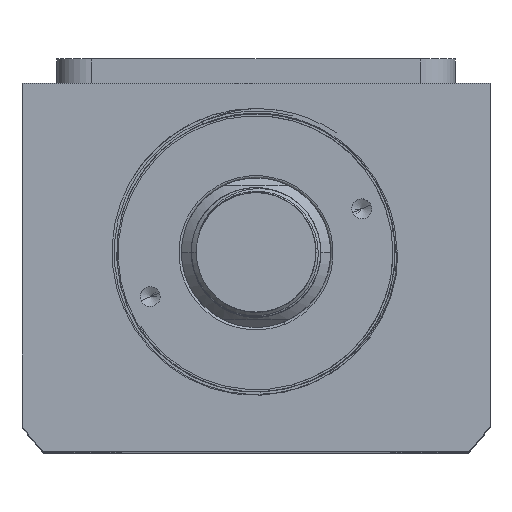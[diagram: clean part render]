
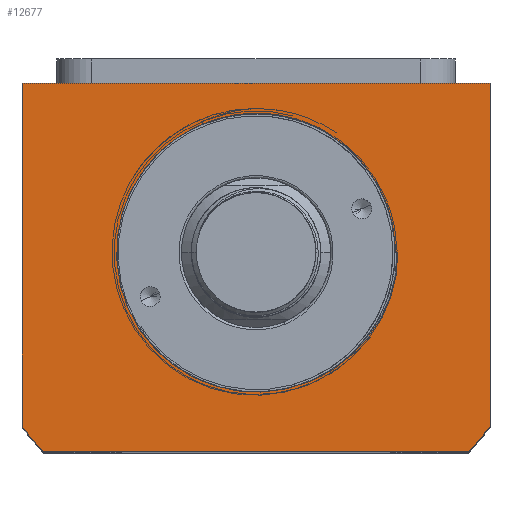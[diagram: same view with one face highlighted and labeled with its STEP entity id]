
A CAD part, top view. The second image highlights one B-rep face of the part: STEP entity #12677.
In plain terms, the highlighted planar face has unit normal (0, 0, 1).
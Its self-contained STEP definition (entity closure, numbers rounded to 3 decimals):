
#31 = DIRECTION ( 'NONE',  ( 0., 0., 1. ) ) ;
#35 = VECTOR ( 'NONE', #11936, 1000. ) ;
#631 = VERTEX_POINT ( 'NONE', #13803 ) ;
#872 = EDGE_CURVE ( 'NONE', #14591, #10505, #4173, .T. ) ;
#988 = EDGE_CURVE ( 'NONE', #6617, #19077, #8606, .T. ) ;
#1070 = DIRECTION ( 'NONE',  ( -1., 0., 0. ) ) ;
#1077 = CARTESIAN_POINT ( 'NONE',  ( 26.694, -9.657, 70. ) ) ;
#1197 = CARTESIAN_POINT ( 'NONE',  ( 0., 0., 70. ) ) ;
#1211 = CARTESIAN_POINT ( 'NONE',  ( 18.129, -21.529, 70. ) ) ;
#1763 = EDGE_CURVE ( 'NONE', #14486, #15279, #13064, .T. ) ;
#2010 = DIRECTION ( 'NONE',  ( 0., 0., -1. ) ) ;
#2461 = CARTESIAN_POINT ( 'NONE',  ( 28.485, -0.71, 70. ) ) ;
#2528 = CARTESIAN_POINT ( 'NONE',  ( 27.887, -5.628, 70. ) ) ;
#2716 = CARTESIAN_POINT ( 'NONE',  ( -47., -34.832, 70. ) ) ;
#2720 = CARTESIAN_POINT ( 'NONE',  ( 11.542, -25.544, 70. ) ) ;
#2805 = CARTESIAN_POINT ( 'NONE',  ( -47., 34., 70. ) ) ;
#3168 = CARTESIAN_POINT ( 'NONE',  ( -42.688, -40., 70. ) ) ;
#3797 = VECTOR ( 'NONE', #4568, 1000. ) ;
#3871 = ORIENTED_EDGE ( 'NONE', *, *, #872, .T. ) ;
#3977 = CARTESIAN_POINT ( 'NONE',  ( 10.232, -26.064, 70. ) ) ;
#4053 = CARTESIAN_POINT ( 'NONE',  ( 18.667, -21.077, 70. ) ) ;
#4100 = PLANE ( 'NONE',  #11523 ) ;
#4113 = CARTESIAN_POINT ( 'NONE',  ( 21.684, -18.094, 70. ) ) ;
#4173 = LINE ( 'NONE', #11051, #9357 ) ;
#4242 = CARTESIAN_POINT ( 'NONE',  ( 28.449, -1.419, 70. ) ) ;
#4568 = DIRECTION ( 'NONE',  ( 0., 1., 0. ) ) ;
#5173 = ORIENTED_EDGE ( 'NONE', *, *, #6550, .T. ) ;
#5643 = CARTESIAN_POINT ( 'NONE',  ( 27.555, -6.99, 70. ) ) ;
#5739 = CARTESIAN_POINT ( 'NONE',  ( 28., 0., 70. ) ) ;
#5774 = CARTESIAN_POINT ( 'NONE',  ( 24.178, -14.712, 70. ) ) ;
#5966 = CIRCLE ( 'NONE', #17912, 28. ) ;
#6017 = EDGE_CURVE ( 'NONE', #10505, #631, #9494, .T. ) ;
#6027 = CARTESIAN_POINT ( 'NONE',  ( 47., 34., 70. ) ) ;
#6143 = CARTESIAN_POINT ( 'NONE',  ( 0., 0., 70. ) ) ;
#6193 = CIRCLE ( 'NONE', #12592, 58.5 ) ;
#6550 = EDGE_CURVE ( 'NONE', #15279, #14591, #6193, .T. ) ;
#6551 = EDGE_CURVE ( 'NONE', #13311, #14486, #13692, .T. ) ;
#6617 = VERTEX_POINT ( 'NONE', #9061 ) ;
#6944 = VERTEX_POINT ( 'NONE', #5739 ) ;
#7213 = CARTESIAN_POINT ( 'NONE',  ( 26.163, -10.961, 70. ) ) ;
#7653 = DIRECTION ( 'NONE',  ( 0., 0., 1. ) ) ;
#8205 = CARTESIAN_POINT ( 'NONE',  ( 0., 0., 70. ) ) ;
#8606 = B_SPLINE_CURVE_WITH_KNOTS ( 'NONE', 3,
 ( #16186, #2461, #4242, #18999, #11539, #2528, #5643, #1077, #7213, #13041, #5774, #8724, #4113, #19187, #11602, #4053, #1211, #17639, #12985, #11725, #14545, #2720, #18936, #3977 ),
 .UNSPECIFIED., .F., .F.,
 ( 4, 2, 2, 2, 2, 2, 2, 2, 2, 2, 2, 4 ),
 ( 0., 0.002, 0.004, 0.009, 0.013, 0.017, 0.021, 0.023, 0.026, 0.03, 0.032, 0.034 ),
 .UNSPECIFIED. ) ;
#8724 = CARTESIAN_POINT ( 'NONE',  ( 22.571, -17.007, 70. ) ) ;
#8775 = DIRECTION ( 'NONE',  ( 0., 0., 1. ) ) ;
#8840 = EDGE_LOOP ( 'NONE', ( #19391, #13714, #5173, #3871, #8922, #11670 ) ) ;
#8922 = ORIENTED_EDGE ( 'NONE', *, *, #6017, .T. ) ;
#9061 = CARTESIAN_POINT ( 'NONE',  ( 28.495, 0., 70. ) ) ;
#9249 = FACE_OUTER_BOUND ( 'NONE', #8840, .T. ) ;
#9357 = VECTOR ( 'NONE', #19067, 1000. ) ;
#9494 = CIRCLE ( 'NONE', #11944, 58.5 ) ;
#9693 = ORIENTED_EDGE ( 'NONE', *, *, #14302, .F. ) ;
#9901 = CARTESIAN_POINT ( 'NONE',  ( -47., -34.832, 70. ) ) ;
#10085 = CARTESIAN_POINT ( 'NONE',  ( 0., 0., 70. ) ) ;
#10102 = ORIENTED_EDGE ( 'NONE', *, *, #988, .T. ) ;
#10217 = DIRECTION ( 'NONE',  ( 0., -1., 0. ) ) ;
#10492 = VECTOR ( 'NONE', #10217, 1000. ) ;
#10505 = VERTEX_POINT ( 'NONE', #18077 ) ;
#10650 = FACE_BOUND ( 'NONE', #15547, .T. ) ;
#11051 = CARTESIAN_POINT ( 'NONE',  ( 42.688, -40., 70. ) ) ;
#11323 = LINE ( 'NONE', #13560, #3797 ) ;
#11523 = AXIS2_PLACEMENT_3D ( 'NONE', #1197, #8775, #13541 ) ;
#11539 = CARTESIAN_POINT ( 'NONE',  ( 28.233, -3.538, 70. ) ) ;
#11602 = CARTESIAN_POINT ( 'NONE',  ( 19.714, -20.129, 70. ) ) ;
#11642 = CARTESIAN_POINT ( 'NONE',  ( 10.232, -26.064, 70. ) ) ;
#11670 = ORIENTED_EDGE ( 'NONE', *, *, #13296, .T. ) ;
#11725 = CARTESIAN_POINT ( 'NONE',  ( 13.459, -24.624, 70. ) ) ;
#11878 = CARTESIAN_POINT ( 'NONE',  ( 0., 0., 70. ) ) ;
#11936 = DIRECTION ( 'NONE',  ( -1., 0., 0. ) ) ;
#11944 = AXIS2_PLACEMENT_3D ( 'NONE', #6143, #7653, #18148 ) ;
#12592 = AXIS2_PLACEMENT_3D ( 'NONE', #11878, #31, #14954 ) ;
#12677 = ADVANCED_FACE ( 'NONE', ( #10650, #9249 ), #4100, .T. ) ;
#12956 = VECTOR ( 'NONE', #1070, 1000. ) ;
#12985 = CARTESIAN_POINT ( 'NONE',  ( 15.3, -23.593, 70. ) ) ;
#13041 = CARTESIAN_POINT ( 'NONE',  ( 24.898, -13.504, 70. ) ) ;
#13064 = LINE ( 'NONE', #2716, #10492 ) ;
#13296 = EDGE_CURVE ( 'NONE', #631, #13311, #11323, .T. ) ;
#13311 = VERTEX_POINT ( 'NONE', #6027 ) ;
#13484 = ORIENTED_EDGE ( 'NONE', *, *, #16881, .T. ) ;
#13541 = DIRECTION ( 'NONE',  ( 1., 0., 0. ) ) ;
#13560 = CARTESIAN_POINT ( 'NONE',  ( 47., 34., 70. ) ) ;
#13692 = LINE ( 'NONE', #2805, #35 ) ;
#13714 = ORIENTED_EDGE ( 'NONE', *, *, #1763, .T. ) ;
#13803 = CARTESIAN_POINT ( 'NONE',  ( 47., -34.832, 70. ) ) ;
#14302 = EDGE_CURVE ( 'NONE', #6617, #6944, #17425, .T. ) ;
#14486 = VERTEX_POINT ( 'NONE', #14799 ) ;
#14545 = CARTESIAN_POINT ( 'NONE',  ( 12.831, -24.945, 70. ) ) ;
#14591 = VERTEX_POINT ( 'NONE', #3168 ) ;
#14799 = CARTESIAN_POINT ( 'NONE',  ( -47., 34., 70. ) ) ;
#14954 = DIRECTION ( 'NONE',  ( 1., 0., 0. ) ) ;
#15279 = VERTEX_POINT ( 'NONE', #9901 ) ;
#15547 = EDGE_LOOP ( 'NONE', ( #9693, #10102, #13484 ) ) ;
#16186 = CARTESIAN_POINT ( 'NONE',  ( 28.495, 0., 70. ) ) ;
#16881 = EDGE_CURVE ( 'NONE', #19077, #6944, #5966, .T. ) ;
#17425 = LINE ( 'NONE', #10085, #12956 ) ;
#17639 = CARTESIAN_POINT ( 'NONE',  ( 16.467, -22.819, 70. ) ) ;
#17912 = AXIS2_PLACEMENT_3D ( 'NONE', #8205, #2010, #18556 ) ;
#18077 = CARTESIAN_POINT ( 'NONE',  ( 42.688, -40., 70. ) ) ;
#18148 = DIRECTION ( 'NONE',  ( 1., 0., 0. ) ) ;
#18556 = DIRECTION ( 'NONE',  ( 1., 0., 0. ) ) ;
#18936 = CARTESIAN_POINT ( 'NONE',  ( 10.89, -25.816, 70. ) ) ;
#18999 = CARTESIAN_POINT ( 'NONE',  ( 28.323, -2.832, 70. ) ) ;
#19067 = DIRECTION ( 'NONE',  ( 1., 0., 0. ) ) ;
#19077 = VERTEX_POINT ( 'NONE', #11642 ) ;
#19187 = CARTESIAN_POINT ( 'NONE',  ( 20.224, -19.631, 70. ) ) ;
#19391 = ORIENTED_EDGE ( 'NONE', *, *, #6551, .T. ) ;
